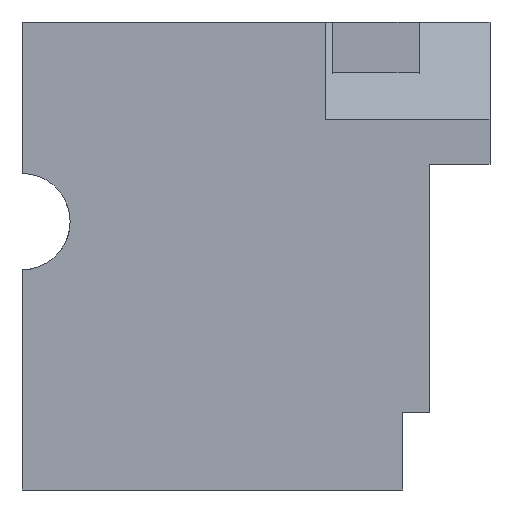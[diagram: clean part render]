
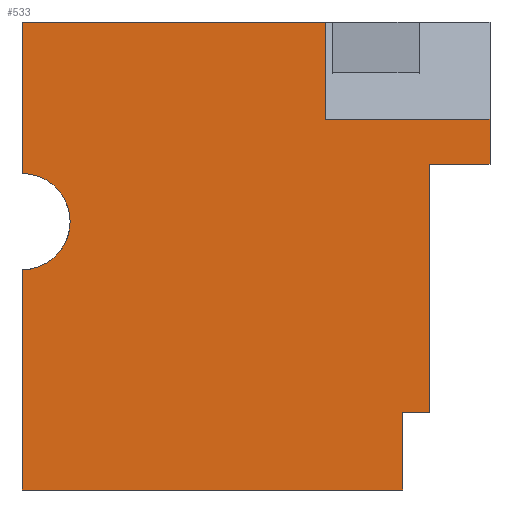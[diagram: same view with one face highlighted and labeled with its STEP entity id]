
A CAD part, left-side view. The second image highlights one B-rep face of the part: STEP entity #533.
In plain terms, the highlighted planar face has unit normal (-1, 0, 0).
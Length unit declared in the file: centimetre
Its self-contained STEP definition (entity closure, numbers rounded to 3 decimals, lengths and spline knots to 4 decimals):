
#2 = AXIS2_PLACEMENT_3D ( 'NONE', #718, #1312, #286 ) ;
#32 = VECTOR ( 'NONE', #912, 100. ) ;
#45 = EDGE_CURVE ( 'NONE', #319, #1100, #491, .T. ) ;
#47 = LINE ( 'NONE', #450, #326 ) ;
#54 = VECTOR ( 'NONE', #463, 100. ) ;
#67 = DIRECTION ( 'NONE',  ( 0., 1., 0. ) ) ;
#78 = VECTOR ( 'NONE', #224, 100. ) ;
#95 = AXIS2_PLACEMENT_3D ( 'NONE', #206, #532, #721 ) ;
#100 = CARTESIAN_POINT ( 'NONE',  ( 0., 0., 696.2517 ) ) ;
#129 = PLANE ( 'NONE',  #95 ) ;
#130 = ORIENTED_EDGE ( 'NONE', *, *, #367, .F. ) ;
#131 = CARTESIAN_POINT ( 'NONE',  ( 0., 186.4201, 0. ) ) ;
#145 = VERTEX_POINT ( 'NONE', #726 ) ;
#206 = CARTESIAN_POINT ( 'NONE',  ( 0., 1000., 1000. ) ) ;
#221 = CARTESIAN_POINT ( 'NONE',  ( 0., 128.3079, 696.2517 ) ) ;
#224 = DIRECTION ( 'NONE',  ( 0., 0., -1. ) ) ;
#237 = CARTESIAN_POINT ( 'NONE',  ( 0., 186.4201, 165.1167 ) ) ;
#245 = VECTOR ( 'NONE', #417, 100. ) ;
#284 = VERTEX_POINT ( 'NONE', #550 ) ;
#286 = DIRECTION ( 'NONE',  ( 0., 0., -1. ) ) ;
#298 = CARTESIAN_POINT ( 'NONE',  ( 0., 0., 792.6789 ) ) ;
#308 = DIRECTION ( 'NONE',  ( 0., 1., 0. ) ) ;
#319 = VERTEX_POINT ( 'NONE', #761 ) ;
#326 = VECTOR ( 'NONE', #1181, 100. ) ;
#343 = LINE ( 'NONE', #970, #456 ) ;
#362 = VERTEX_POINT ( 'NONE', #1103 ) ;
#367 = EDGE_CURVE ( 'NONE', #1132, #362, #888, .T. ) ;
#384 = EDGE_CURVE ( 'NONE', #505, #521, #576, .T. ) ;
#387 = DIRECTION ( 'NONE',  ( 0., 0., -1. ) ) ;
#402 = ORIENTED_EDGE ( 'NONE', *, *, #990, .F. ) ;
#417 = DIRECTION ( 'NONE',  ( 0., 0., -1. ) ) ;
#437 = VERTEX_POINT ( 'NONE', #221 ) ;
#442 = EDGE_LOOP ( 'NONE', ( #931, #1165, #1250, #890, #579, #130, #1322, #928, #759, #1219, #861, #402 ) ) ;
#450 = CARTESIAN_POINT ( 'NONE',  ( 0., 1000., 1000. ) ) ;
#456 = VECTOR ( 'NONE', #985, 100. ) ;
#463 = DIRECTION ( 'NONE',  ( 0., 0., -1. ) ) ;
#477 = VECTOR ( 'NONE', #308, 100. ) ;
#485 = CARTESIAN_POINT ( 'NONE',  ( 0., 186.4201, 0. ) ) ;
#491 = CIRCLE ( 'NONE', #2, 102.8673 ) ;
#505 = VERTEX_POINT ( 'NONE', #298 ) ;
#513 = LINE ( 'NONE', #829, #698 ) ;
#520 = EDGE_CURVE ( 'NONE', #437, #731, #1055, .T. ) ;
#521 = VERTEX_POINT ( 'NONE', #100 ) ;
#532 = DIRECTION ( 'NONE',  ( 1., 0., 0. ) ) ;
#533 = ADVANCED_FACE ( 'NONE', ( #930 ), #129, .F. ) ;
#550 = CARTESIAN_POINT ( 'NONE',  ( 0., 1000., 1000. ) ) ;
#551 = EDGE_CURVE ( 'NONE', #284, #1132, #513, .T. ) ;
#566 = VECTOR ( 'NONE', #1294, 100. ) ;
#574 = VERTEX_POINT ( 'NONE', #237 ) ;
#575 = LINE ( 'NONE', #994, #984 ) ;
#576 = LINE ( 'NONE', #1201, #566 ) ;
#579 = ORIENTED_EDGE ( 'NONE', *, *, #867, .F. ) ;
#597 = EDGE_CURVE ( 'NONE', #1100, #145, #47, .T. ) ;
#612 = LINE ( 'NONE', #817, #78 ) ;
#698 = VECTOR ( 'NONE', #837, 100. ) ;
#715 = CARTESIAN_POINT ( 'NONE',  ( 0., 351.0868, 1000. ) ) ;
#718 = CARTESIAN_POINT ( 'NONE',  ( 0., 1000., 573.4071 ) ) ;
#721 = DIRECTION ( 'NONE',  ( 0., 0., -1. ) ) ;
#726 = CARTESIAN_POINT ( 'NONE',  ( 0., 1000., 0. ) ) ;
#731 = VERTEX_POINT ( 'NONE', #1191 ) ;
#759 = ORIENTED_EDGE ( 'NONE', *, *, #45, .T. ) ;
#761 = CARTESIAN_POINT ( 'NONE',  ( 0., 1000., 676.2743 ) ) ;
#794 = EDGE_CURVE ( 'NONE', #731, #574, #575, .T. ) ;
#817 = CARTESIAN_POINT ( 'NONE',  ( 0., 1000., 1000. ) ) ;
#829 = CARTESIAN_POINT ( 'NONE',  ( 0., 1000., 1000. ) ) ;
#837 = DIRECTION ( 'NONE',  ( 0., -1., 0. ) ) ;
#848 = CARTESIAN_POINT ( 'NONE',  ( 0., 128.3079, 696.2517 ) ) ;
#855 = VECTOR ( 'NONE', #387, 100. ) ;
#861 = ORIENTED_EDGE ( 'NONE', *, *, #1247, .T. ) ;
#867 = EDGE_CURVE ( 'NONE', #362, #505, #894, .T. ) ;
#888 = LINE ( 'NONE', #1174, #54 ) ;
#890 = ORIENTED_EDGE ( 'NONE', *, *, #384, .F. ) ;
#894 = LINE ( 'NONE', #1220, #32 ) ;
#912 = DIRECTION ( 'NONE',  ( 0., -1., 0. ) ) ;
#928 = ORIENTED_EDGE ( 'NONE', *, *, #1070, .T. ) ;
#930 = FACE_OUTER_BOUND ( 'NONE', #442, .T. ) ;
#931 = ORIENTED_EDGE ( 'NONE', *, *, #794, .F. ) ;
#949 = LINE ( 'NONE', #848, #477 ) ;
#970 = CARTESIAN_POINT ( 'NONE',  ( 0., 1000., 0. ) ) ;
#984 = VECTOR ( 'NONE', #67, 100. ) ;
#985 = DIRECTION ( 'NONE',  ( 0., -1., 0. ) ) ;
#990 = EDGE_CURVE ( 'NONE', #574, #1268, #1013, .T. ) ;
#994 = CARTESIAN_POINT ( 'NONE',  ( 0., 0., 165.1167 ) ) ;
#1013 = LINE ( 'NONE', #485, #855 ) ;
#1055 = LINE ( 'NONE', #1125, #245 ) ;
#1070 = EDGE_CURVE ( 'NONE', #284, #319, #612, .T. ) ;
#1100 = VERTEX_POINT ( 'NONE', #1334 ) ;
#1103 = CARTESIAN_POINT ( 'NONE',  ( 0., 351.0868, 792.6789 ) ) ;
#1125 = CARTESIAN_POINT ( 'NONE',  ( 0., 128.3079, 696.2517 ) ) ;
#1132 = VERTEX_POINT ( 'NONE', #715 ) ;
#1165 = ORIENTED_EDGE ( 'NONE', *, *, #520, .F. ) ;
#1174 = CARTESIAN_POINT ( 'NONE',  ( 0., 351.0868, 1000. ) ) ;
#1175 = EDGE_CURVE ( 'NONE', #521, #437, #949, .T. ) ;
#1181 = DIRECTION ( 'NONE',  ( 0., 0., -1. ) ) ;
#1191 = CARTESIAN_POINT ( 'NONE',  ( 0., 128.3079, 165.1167 ) ) ;
#1201 = CARTESIAN_POINT ( 'NONE',  ( 0., 0., 1000. ) ) ;
#1219 = ORIENTED_EDGE ( 'NONE', *, *, #597, .T. ) ;
#1220 = CARTESIAN_POINT ( 'NONE',  ( 0., 351.0868, 792.6789 ) ) ;
#1247 = EDGE_CURVE ( 'NONE', #145, #1268, #343, .T. ) ;
#1250 = ORIENTED_EDGE ( 'NONE', *, *, #1175, .F. ) ;
#1268 = VERTEX_POINT ( 'NONE', #131 ) ;
#1294 = DIRECTION ( 'NONE',  ( 0., 0., -1. ) ) ;
#1312 = DIRECTION ( 'NONE',  ( 1., 0., 0. ) ) ;
#1322 = ORIENTED_EDGE ( 'NONE', *, *, #551, .F. ) ;
#1334 = CARTESIAN_POINT ( 'NONE',  ( 0., 1000., 470.5398 ) ) ;
